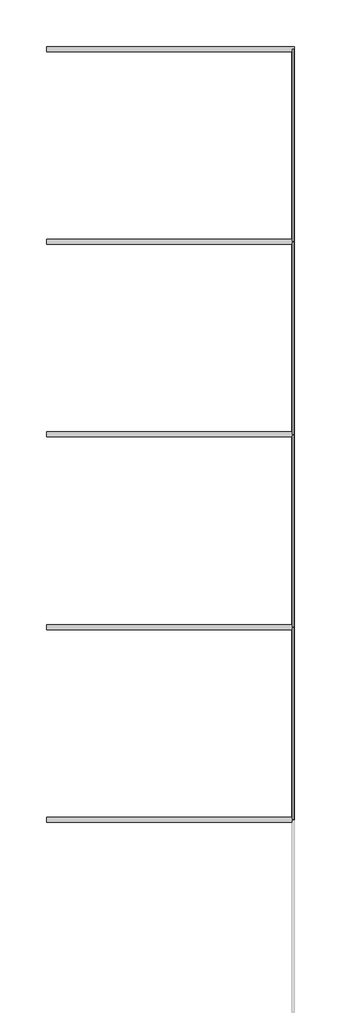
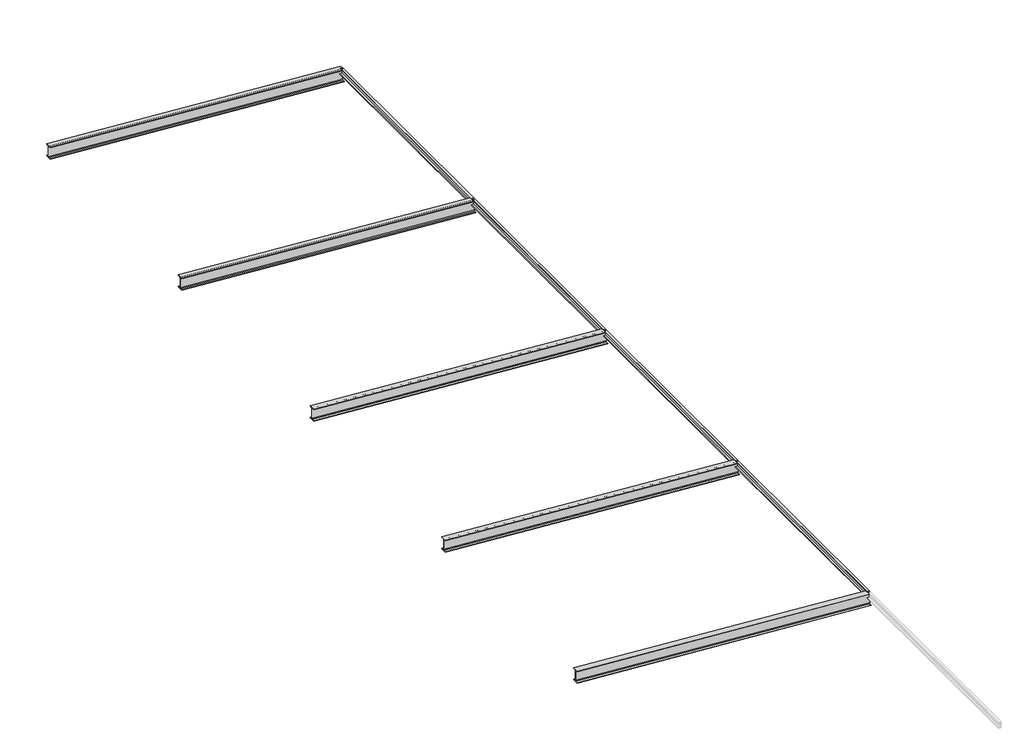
# One storey, part 2 of 2: 9 beams.
"""IFC4 building model written with IfcOpenShell, lengths in millimetres."""

from ifc_helpers import new_model, si_unit, frame, origin, place, context, project, spatial, polyline, ellipse_curve, transform, mapped, element, save
from ifc_brep_helpers import plane_surface, revolved_surface, advanced_brep
from components import c160_97cef8d6, c160_676f0d43, c160_1365dad8

model = new_model("IFC4")

# Units and contexts
model_context = context("Model", 3, world=origin())
ifc_project = project(units=[si_unit("LENGTHUNIT", "METRE", prefix="MILLI")], contexts=[model_context])

# Site, building, storey
site = spatial("IfcSite", under=ifc_project)
building = spatial("IfcBuilding", under=site)
storey = spatial("IfcBuildingStorey", under=building, Name="+3,50 góra", Elevation=3504.0)

# Beams
placement = place(None, origin())
c160_shape = c160_97cef8d6(model_context)
element("IfcBeam", 1, ObjectType="RPLN C - Ceowniki normalne : C160", at=placement, inside=storey, context=model_context, shape_type="MappedRepresentation", body=[
    mapped(c160_shape, transform((11806.0493936, 14087.5183415, 3761.259887), x_axis=(0.0, -1.0, 0.0), y_axis=(0.997461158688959, 0.0, -0.07121261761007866), z_axis=(0.07121261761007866, 0.0, 0.997461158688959))),
])
c160_2_shape = c160_676f0d43(model_context)
element("IfcBeam", 2, ObjectType="RPLN C - Ceowniki normalne : C160", at=placement, inside=storey, context=model_context, shape_type="MappedRepresentation", body=[
    mapped(c160_2_shape, transform((11806.0493936, -3912.4816585, 3761.259887), x_axis=(0.0, -1.0, 0.0), y_axis=(0.997461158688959, 0.0, -0.07121261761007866), z_axis=(0.07121261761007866, 0.0, 0.997461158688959))),
])
element("IfcBeam", 3, ObjectType="RPLN C - Ceowniki normalne : C160", at=placement, inside=storey, context=model_context, shape_type="MappedRepresentation", body=[
    mapped(c160_2_shape, transform((11806.0493936, 2087.5183415, 3761.259887), x_axis=(0.0, -1.0, 0.0), y_axis=(0.997461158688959, 0.0, -0.07121261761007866), z_axis=(0.07121261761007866, 0.0, 0.997461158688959))),
])
c160_3_shape = c160_1365dad8(model_context)
element("IfcBeam", 4, ObjectType="RPLN C - Ceowniki normalne : C160", at=placement, inside=storey, context=model_context, shape_type="MappedRepresentation", body=[
    mapped(c160_3_shape, transform((11806.0493936, 8087.5183415, 3761.259887), x_axis=(0.0, -1.0, 0.0), y_axis=(0.997461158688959, 0.0, -0.07121261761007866), z_axis=(0.07121261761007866, 0.0, 0.997461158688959))),
])
element("IfcBeam", 5, ObjectType="RPLN IPE - Dwuteowniki równoległościenne : I330PE", at=placement, inside=storey, context=model_context, shape_type="AdvancedBrep", body=[
    advanced_brep(
    [(4098.4032904, 17109.2683415, 4052.3806511), (4098.4032904, 17167.5183415, 4052.3806511), (4098.4032904, 17167.5183415, 4040.8513801), (4098.4032904, 17007.5183415, 4040.8513801), (4098.4032904, 17007.5183415, 4052.3806511), (4098.4032904, 17065.7683415, 4052.3806511), (4098.4032904, 17083.7683415, 4070.4264665), (4098.4032904, 17083.7683415, 4342.1162438), (4098.4032904, 17065.7683415, 4360.1620592), (4098.4032904, 17007.5183415, 4360.1620592), (4098.4032904, 17007.5183415, 4371.6913302), (4098.4032904, 17167.5183415, 4371.6913302), (4098.4032904, 17167.5183415, 4360.1620592), (4098.4032904, 17109.2683415, 4360.1620592), (4098.4032904, 17091.2683415, 4342.1162438), (4098.4032904, 17091.2683415, 4070.4264665), (11827.9888896, 17167.5183415, 3500.5355804), (11827.9888896, 17109.2683415, 3500.5355804), (11827.9888896, 17091.2683415, 3518.5813959), (11827.9888896, 17091.2683415, 3790.2711731), (11827.9888896, 17109.2683415, 3808.3169886), (11827.9888896, 17167.5183415, 3808.3169886), (11827.9888896, 17167.5183415, 3819.8462596), (11827.9888896, 17007.5183415, 3819.8462596), (11827.9888896, 17007.5183415, 3808.3169886), (11827.9888896, 17065.7683415, 3808.3169886), (11827.9888896, 17083.7683415, 3790.2711731), (11827.9888896, 17083.7683415, 3518.5813959), (11827.9888896, 17065.7683415, 3500.5355804), (11827.9888896, 17007.5183415, 3500.5355804), (11827.9888896, 17007.5183415, 3489.0063094), (11827.9888896, 17167.5183415, 3489.0063094)],
    [
        (0, 1),
        (1, 2),
        (2, 3),
        (3, 4),
        (4, 5),
        (5, 6, ellipse_curve(frame((4098.4032904, 17065.7683415, 4070.4264665), z_axis=(1.0, 0.0, 0.0), x_axis=(0.0, 0.0, 1.0)), 18.0458155, 18.0)),
        (6, 7),
        (7, 8, ellipse_curve(frame((4098.4032904, 17065.7683415, 4342.1162438), z_axis=(1.0, 0.0, 0.0), x_axis=(0.0, 0.0, 1.0)), 18.0458155, 18.0)),
        (8, 9),
        (9, 10),
        (10, 11),
        (11, 12),
        (12, 13),
        (13, 14, ellipse_curve(frame((4098.4032904, 17109.2683415, 4342.1162438), z_axis=(1.0, 0.0, 0.0), x_axis=(0.0, 0.0, 1.0)), 18.0458155, 18.0)),
        (14, 15),
        (15, 0, ellipse_curve(frame((4098.4032904, 17109.2683415, 4070.4264665), z_axis=(1.0, 0.0, 0.0), x_axis=(0.0, 0.0, 1.0)), 18.0458155, 18.0)),
        (16, 17),
        (17, 18, ellipse_curve(frame((11827.9888896, 17109.2683415, 3518.5813959), z_axis=(-1.0, 0.0, 0.0), x_axis=(0.0, 0.0, 1.0)), 18.0458155, 18.0)),
        (18, 19),
        (19, 20, ellipse_curve(frame((11827.9888896, 17109.2683415, 3790.2711731), z_axis=(-1.0, 0.0, 0.0), x_axis=(0.0, 0.0, 1.0)), 18.0458155, 18.0)),
        (20, 21),
        (21, 22),
        (22, 23),
        (23, 24),
        (24, 25),
        (25, 26, ellipse_curve(frame((11827.9888896, 17065.7683415, 3790.2711731), z_axis=(-1.0, 0.0, 0.0), x_axis=(0.0, 0.0, 1.0)), 18.0458155, 18.0)),
        (26, 27),
        (27, 28, ellipse_curve(frame((11827.9888896, 17065.7683415, 3518.5813959), z_axis=(-1.0, 0.0, 0.0), x_axis=(0.0, 0.0, 1.0)), 18.0458155, 18.0)),
        (28, 29),
        (29, 30),
        (30, 31),
        (31, 16),
        (16, 1),
        (0, 17),
        (31, 2),
        (30, 3),
        (29, 4),
        (28, 5),
        (27, 6),
        (26, 7),
        (25, 8),
        (24, 9),
        (23, 10),
        (22, 11),
        (21, 12),
        (20, 13),
        (19, 14),
        (18, 15),
    ],
    [
        plane_surface(frame((4098.4032904, -28791.4644976, 4040.8513801), z_axis=(-1.0, 0.0, 0.0), x_axis=(0.0, 0.0, -1.0))),
        plane_surface(frame((11827.9888896, -28791.4644976, 3790.5936883), z_axis=(1.0, 0.0, 0.0), x_axis=(0.0, 0.0, 1.0))),
        plane_surface(frame((11888.751267, 17167.5183415, 3496.1975188), z_axis=(0.0712126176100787, 0.0, 0.997461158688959), x_axis=(-0.997461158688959, 0.0, 0.0712126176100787))),
        plane_surface(frame((11887.9323219, 17167.5183415, 3484.7267155), z_axis=(0.0, 1.0, 0.0), x_axis=(-0.997461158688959, 0.0, 0.0712126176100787))),
        plane_surface(frame((11887.9323219, 17007.5183415, 3484.7267155), z_axis=(-0.0712126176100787, 0.0, -0.997461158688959), x_axis=(-0.997461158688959, 0.0, 0.0712126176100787))),
        plane_surface(frame((11888.751267, 17007.5183415, 3496.1975188), z_axis=(0.0, -1.0, 0.0), x_axis=(-0.997461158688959, 0.0, 0.0712126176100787))),
        plane_surface(frame((11888.751267, 17065.7683415, 3496.1975188), z_axis=(0.0712126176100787, 0.0, 0.997461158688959), x_axis=(-0.997461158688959, 0.0, 0.0712126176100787))),
        revolved_surface(polyline([(4097.1214632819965, 17047.7683415, 4070.517981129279), (11829.270716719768, 17047.7683415, 3518.489881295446)]), (11890.0330941, 17065.7683415, 3514.1518197), (-0.997461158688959, 0.0, 0.0712126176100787)),
        plane_surface(frame((11909.3317135, 17083.7683415, 3784.4637937), z_axis=(0.0, -1.0, 0.0), x_axis=(-0.997461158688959, 0.0, 0.0712126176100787))),
        revolved_surface(polyline([(4097.121463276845, 17047.7683415, 4342.2077583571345), (11829.270716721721, 17047.7683415, 3790.179658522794)]), (11909.3317135, 17065.7683415, 3784.4637937), (-0.997461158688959, 0.0, 0.0712126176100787)),
        plane_surface(frame((11910.6135406, 17007.5183415, 3802.4180946), z_axis=(-0.0712126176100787, 0.0, -0.997461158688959), x_axis=(-0.997461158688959, 0.0, 0.0712126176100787))),
        plane_surface(frame((11911.4324857, 17007.5183415, 3813.8888979), z_axis=(0.0, -1.0, 0.0), x_axis=(-0.997461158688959, 0.0, 0.0712126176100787))),
        plane_surface(frame((11911.4324857, 17167.5183415, 3813.8888979), z_axis=(0.0712126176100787, 0.0, 0.997461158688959), x_axis=(-0.997461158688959, 0.0, 0.0712126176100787))),
        plane_surface(frame((11910.6135406, 17167.5183415, 3802.4180946), z_axis=(0.0, 1.0, 0.0), x_axis=(-0.997461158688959, 0.0, 0.0712126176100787))),
        plane_surface(frame((11910.6135406, 17109.2683415, 3802.4180946), z_axis=(-0.0712126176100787, 0.0, -0.997461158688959), x_axis=(-0.997461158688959, 0.0, 0.0712126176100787))),
        revolved_surface(polyline([(4097.121463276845, 17091.2683415, 4342.2077583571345), (11829.270716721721, 17091.2683415, 3790.179658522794)]), (11909.3317135, 17109.2683415, 3784.4637937), (-0.997461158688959, 0.0, 0.0712126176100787)),
        plane_surface(frame((11890.0330941, 17091.2683415, 3514.1518197), z_axis=(0.0, 1.0, 0.0), x_axis=(-0.997461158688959, 0.0, 0.0712126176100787))),
        revolved_surface(polyline([(4097.1214632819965, 17091.2683415, 4070.517981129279), (11829.270716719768, 17091.2683415, 3518.489881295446)]), (11890.0330941, 17109.2683415, 3514.1518197), (-0.997461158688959, 0.0, 0.0712126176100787)),
    ],
    [
        (0, [[1, 2, 3, 4, 5, 6, 7, 8, 9, 10, 11, 12, 13, 14, 15, 16]]),
        (1, [[17, 18, 19, 20, 21, 22, 23, 24, 25, 26, 27, 28, 29, 30, 31, 32]]),
        (2, [[33, -1, 34, -17]]),
        (3, [[35, -2, -33, -32]]),
        (4, [[36, -3, -35, -31]]),
        (5, [[37, -4, -36, -30]]),
        (6, [[38, -5, -37, -29]]),
        (7, [[39, -6, -38, -28]]),
        (8, [[40, -7, -39, -27]]),
        (9, [[41, -8, -40, -26]]),
        (10, [[42, -9, -41, -25]]),
        (11, [[43, -10, -42, -24]]),
        (12, [[44, -11, -43, -23]]),
        (13, [[45, -12, -44, -22]]),
        (14, [[46, -13, -45, -21]]),
        (15, [[47, -14, -46, -20]]),
        (16, [[48, -15, -47, -19]]),
        (17, [[-34, -16, -48, -18]]),
    ],
),
])
element("IfcBeam", 6, ObjectType="RPLN IPE - Dwuteowniki równoległościenne : I330PE", at=placement, inside=storey, context=model_context, shape_type="AdvancedBrep", body=[
    advanced_brep(
    [(4098.4032904, -6890.7316585, 4052.3806511), (4098.4032904, -6832.4816585, 4052.3806511), (4098.4032904, -6832.4816585, 4040.8513801), (4098.4032904, -6992.4816585, 4040.8513801), (4098.4032904, -6992.4816585, 4052.3806511), (4098.4032904, -6934.2316585, 4052.3806511), (4098.4032904, -6916.2316585, 4070.4264665), (4098.4032904, -6916.2316585, 4342.1162438), (4098.4032904, -6934.2316585, 4360.1620592), (4098.4032904, -6992.4816585, 4360.1620592), (4098.4032904, -6992.4816585, 4371.6913302), (4098.4032904, -6832.4816585, 4371.6913302), (4098.4032904, -6832.4816585, 4360.1620592), (4098.4032904, -6890.7316585, 4360.1620592), (4098.4032904, -6908.7316585, 4342.1162438), (4098.4032904, -6908.7316585, 4070.4264665), (11827.9888896, -6832.4816585, 3500.5355804), (11827.9888896, -6890.7316585, 3500.5355804), (11827.9888896, -6908.7316585, 3518.5813959), (11827.9888896, -6908.7316585, 3790.2711731), (11827.9888896, -6890.7316585, 3808.3169886), (11827.9888896, -6832.4816585, 3808.3169886), (11827.9888896, -6832.4816585, 3819.8462596), (11827.9888896, -6992.4816585, 3819.8462596), (11827.9888896, -6992.4816585, 3808.3169886), (11827.9888896, -6934.2316585, 3808.3169886), (11827.9888896, -6916.2316585, 3790.2711731), (11827.9888896, -6916.2316585, 3518.5813959), (11827.9888896, -6934.2316585, 3500.5355804), (11827.9888896, -6992.4816585, 3500.5355804), (11827.9888896, -6992.4816585, 3489.0063094), (11827.9888896, -6832.4816585, 3489.0063094)],
    [
        (0, 1),
        (1, 2),
        (2, 3),
        (3, 4),
        (4, 5),
        (5, 6, ellipse_curve(frame((4098.4032904, -6934.2316585, 4070.4264665), z_axis=(1.0, 0.0, 0.0), x_axis=(0.0, 0.0, 1.0)), 18.0458155, 18.0)),
        (6, 7),
        (7, 8, ellipse_curve(frame((4098.4032904, -6934.2316585, 4342.1162438), z_axis=(1.0, 0.0, 0.0), x_axis=(0.0, 0.0, 1.0)), 18.0458155, 18.0)),
        (8, 9),
        (9, 10),
        (10, 11),
        (11, 12),
        (12, 13),
        (13, 14, ellipse_curve(frame((4098.4032904, -6890.7316585, 4342.1162438), z_axis=(1.0, 0.0, 0.0), x_axis=(0.0, 0.0, 1.0)), 18.0458155, 18.0)),
        (14, 15),
        (15, 0, ellipse_curve(frame((4098.4032904, -6890.7316585, 4070.4264665), z_axis=(1.0, 0.0, 0.0), x_axis=(0.0, 0.0, 1.0)), 18.0458155, 18.0)),
        (16, 17),
        (17, 18, ellipse_curve(frame((11827.9888896, -6890.7316585, 3518.5813959), z_axis=(-1.0, 0.0, 0.0), x_axis=(0.0, 0.0, 1.0)), 18.0458155, 18.0)),
        (18, 19),
        (19, 20, ellipse_curve(frame((11827.9888896, -6890.7316585, 3790.2711731), z_axis=(-1.0, 0.0, 0.0), x_axis=(0.0, 0.0, 1.0)), 18.0458155, 18.0)),
        (20, 21),
        (21, 22),
        (22, 23),
        (23, 24),
        (24, 25),
        (25, 26, ellipse_curve(frame((11827.9888896, -6934.2316585, 3790.2711731), z_axis=(-1.0, 0.0, 0.0), x_axis=(0.0, 0.0, 1.0)), 18.0458155, 18.0)),
        (26, 27),
        (27, 28, ellipse_curve(frame((11827.9888896, -6934.2316585, 3518.5813959), z_axis=(-1.0, 0.0, 0.0), x_axis=(0.0, 0.0, 1.0)), 18.0458155, 18.0)),
        (28, 29),
        (29, 30),
        (30, 31),
        (31, 16),
        (16, 1),
        (0, 17),
        (31, 2),
        (30, 3),
        (29, 4),
        (28, 5),
        (27, 6),
        (26, 7),
        (25, 8),
        (24, 9),
        (23, 10),
        (22, 11),
        (21, 12),
        (20, 13),
        (19, 14),
        (18, 15),
    ],
    [
        plane_surface(frame((4098.4032904, -28791.4644976, 4040.8513801), z_axis=(-1.0, 0.0, 0.0), x_axis=(0.0, 0.0, -1.0))),
        plane_surface(frame((11827.9888896, -28791.4644976, 3790.5936883), z_axis=(1.0, 0.0, 0.0), x_axis=(0.0, 0.0, 1.0))),
        plane_surface(frame((11939.8742372, -6832.4816585, 3492.5476519), z_axis=(0.07121261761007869, 0.0, 0.997461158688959), x_axis=(-0.997461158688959, 0.0, 0.07121261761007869))),
        plane_surface(frame((11939.0552921, -6832.4816585, 3481.0768486), z_axis=(0.0, 1.0, 0.0), x_axis=(-0.997461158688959, 0.0, 0.07121261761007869))),
        plane_surface(frame((11939.0552921, -6992.4816585, 3481.0768486), z_axis=(-0.07121261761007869, 0.0, -0.997461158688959), x_axis=(-0.997461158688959, 0.0, 0.07121261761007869))),
        plane_surface(frame((11939.8742372, -6992.4816585, 3492.5476519), z_axis=(0.0, -1.0, 0.0), x_axis=(-0.997461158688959, 0.0, 0.07121261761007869))),
        plane_surface(frame((11939.8742372, -6934.2316585, 3492.5476519), z_axis=(0.07121261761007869, 0.0, 0.997461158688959), x_axis=(-0.997461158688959, 0.0, 0.07121261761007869))),
        revolved_surface(polyline([(4097.1214632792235, -6952.2316585, 4070.5179810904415), (11829.270716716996, -6952.2316585, 3518.4898812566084)]), (11941.1560643, -6934.2316585, 3510.5019527), (-0.997461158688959, 0.0, 0.07121261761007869)),
        plane_surface(frame((11960.4546837, -6916.2316585, 3780.8139267), z_axis=(0.0, -1.0, 0.0), x_axis=(-0.997461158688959, 0.0, 0.07121261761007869))),
        revolved_surface(polyline([(4097.121463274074, -6952.2316585, 4342.207758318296), (11829.270716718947, -6952.2316585, 3790.1796584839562)]), (11960.4546837, -6934.2316585, 3780.8139267), (-0.997461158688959, 0.0, 0.07121261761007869)),
        plane_surface(frame((11961.7365108, -6992.4816585, 3798.7682276), z_axis=(-0.07121261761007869, 0.0, -0.997461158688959), x_axis=(-0.997461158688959, 0.0, 0.07121261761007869))),
        plane_surface(frame((11962.5554559, -6992.4816585, 3810.2390309), z_axis=(0.0, -1.0, 0.0), x_axis=(-0.997461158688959, 0.0, 0.07121261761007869))),
        plane_surface(frame((11962.5554559, -6832.4816585, 3810.2390309), z_axis=(0.07121261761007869, 0.0, 0.997461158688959), x_axis=(-0.997461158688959, 0.0, 0.07121261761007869))),
        plane_surface(frame((11961.7365108, -6832.4816585, 3798.7682276), z_axis=(0.0, 1.0, 0.0), x_axis=(-0.997461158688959, 0.0, 0.07121261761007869))),
        plane_surface(frame((11961.7365108, -6890.7316585, 3798.7682276), z_axis=(-0.07121261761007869, 0.0, -0.997461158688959), x_axis=(-0.997461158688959, 0.0, 0.07121261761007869))),
        revolved_surface(polyline([(4097.121463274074, -6908.7316585, 4342.207758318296), (11829.270716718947, -6908.7316585, 3790.1796584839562)]), (11960.4546837, -6890.7316585, 3780.8139267), (-0.997461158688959, 0.0, 0.07121261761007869)),
        plane_surface(frame((11941.1560643, -6908.7316585, 3510.5019527), z_axis=(0.0, 1.0, 0.0), x_axis=(-0.997461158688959, 0.0, 0.07121261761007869))),
        revolved_surface(polyline([(4097.1214632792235, -6908.7316585, 4070.5179810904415), (11829.270716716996, -6908.7316585, 3518.4898812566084)]), (11941.1560643, -6890.7316585, 3510.5019527), (-0.997461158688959, 0.0, 0.07121261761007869)),
    ],
    [
        (0, [[1, 2, 3, 4, 5, 6, 7, 8, 9, 10, 11, 12, 13, 14, 15, 16]]),
        (1, [[17, 18, 19, 20, 21, 22, 23, 24, 25, 26, 27, 28, 29, 30, 31, 32]]),
        (2, [[33, -1, 34, -17]]),
        (3, [[35, -2, -33, -32]]),
        (4, [[36, -3, -35, -31]]),
        (5, [[37, -4, -36, -30]]),
        (6, [[38, -5, -37, -29]]),
        (7, [[39, -6, -38, -28]]),
        (8, [[40, -7, -39, -27]]),
        (9, [[41, -8, -40, -26]]),
        (10, [[42, -9, -41, -25]]),
        (11, [[43, -10, -42, -24]]),
        (12, [[44, -11, -43, -23]]),
        (13, [[45, -12, -44, -22]]),
        (14, [[46, -13, -45, -21]]),
        (15, [[47, -14, -46, -20]]),
        (16, [[48, -15, -47, -19]]),
        (17, [[-34, -16, -48, -18]]),
    ],
),
])
element("IfcBeam", 7, ObjectType="RPLN IPE - Dwuteowniki równoległościenne : I330PE", at=placement, inside=storey, context=model_context, shape_type="AdvancedBrep", body=[
    advanced_brep(
    [(4098.4032904, -890.7316585, 4052.3806511), (4098.4032904, -832.4816585, 4052.3806511), (4098.4032904, -832.4816585, 4040.8513801), (4098.4032904, -992.4816585, 4040.8513801), (4098.4032904, -992.4816585, 4052.3806511), (4098.4032904, -934.2316585, 4052.3806511), (4098.4032904, -916.2316585, 4070.4264665), (4098.4032904, -916.2316585, 4342.1162438), (4098.4032904, -934.2316585, 4360.1620592), (4098.4032904, -992.4816585, 4360.1620592), (4098.4032904, -992.4816585, 4371.6913302), (4098.4032904, -832.4816585, 4371.6913302), (4098.4032904, -832.4816585, 4360.1620592), (4098.4032904, -890.7316585, 4360.1620592), (4098.4032904, -908.7316585, 4342.1162438), (4098.4032904, -908.7316585, 4070.4264665), (11827.9888896, -832.4816585, 3500.5355804), (11827.9888896, -890.7316585, 3500.5355804), (11827.9888896, -908.7316585, 3518.5813959), (11827.9888896, -908.7316585, 3790.2711731), (11827.9888896, -890.7316585, 3808.3169886), (11827.9888896, -832.4816585, 3808.3169886), (11827.9888896, -832.4816585, 3819.8462596), (11827.9888896, -992.4816585, 3819.8462596), (11827.9888896, -992.4816585, 3808.3169886), (11827.9888896, -934.2316585, 3808.3169886), (11827.9888896, -916.2316585, 3790.2711731), (11827.9888896, -916.2316585, 3518.5813959), (11827.9888896, -934.2316585, 3500.5355804), (11827.9888896, -992.4816585, 3500.5355804), (11827.9888896, -992.4816585, 3489.0063094), (11827.9888896, -832.4816585, 3489.0063094)],
    [
        (0, 1),
        (1, 2),
        (2, 3),
        (3, 4),
        (4, 5),
        (5, 6, ellipse_curve(frame((4098.4032904, -934.2316585, 4070.4264665), z_axis=(1.0, 0.0, 0.0), x_axis=(0.0, 0.0, 1.0)), 18.0458155, 18.0)),
        (6, 7),
        (7, 8, ellipse_curve(frame((4098.4032904, -934.2316585, 4342.1162438), z_axis=(1.0, 0.0, 0.0), x_axis=(0.0, 0.0, 1.0)), 18.0458155, 18.0)),
        (8, 9),
        (9, 10),
        (10, 11),
        (11, 12),
        (12, 13),
        (13, 14, ellipse_curve(frame((4098.4032904, -890.7316585, 4342.1162438), z_axis=(1.0, 0.0, 0.0), x_axis=(0.0, 0.0, 1.0)), 18.0458155, 18.0)),
        (14, 15),
        (15, 0, ellipse_curve(frame((4098.4032904, -890.7316585, 4070.4264665), z_axis=(1.0, 0.0, 0.0), x_axis=(0.0, 0.0, 1.0)), 18.0458155, 18.0)),
        (16, 17),
        (17, 18, ellipse_curve(frame((11827.9888896, -890.7316585, 3518.5813959), z_axis=(-1.0, 0.0, 0.0), x_axis=(0.0, 0.0, 1.0)), 18.0458155, 18.0)),
        (18, 19),
        (19, 20, ellipse_curve(frame((11827.9888896, -890.7316585, 3790.2711731), z_axis=(-1.0, 0.0, 0.0), x_axis=(0.0, 0.0, 1.0)), 18.0458155, 18.0)),
        (20, 21),
        (21, 22),
        (22, 23),
        (23, 24),
        (24, 25),
        (25, 26, ellipse_curve(frame((11827.9888896, -934.2316585, 3790.2711731), z_axis=(-1.0, 0.0, 0.0), x_axis=(0.0, 0.0, 1.0)), 18.0458155, 18.0)),
        (26, 27),
        (27, 28, ellipse_curve(frame((11827.9888896, -934.2316585, 3518.5813959), z_axis=(-1.0, 0.0, 0.0), x_axis=(0.0, 0.0, 1.0)), 18.0458155, 18.0)),
        (28, 29),
        (29, 30),
        (30, 31),
        (31, 16),
        (16, 1),
        (0, 17),
        (31, 2),
        (30, 3),
        (29, 4),
        (28, 5),
        (27, 6),
        (26, 7),
        (25, 8),
        (24, 9),
        (23, 10),
        (22, 11),
        (21, 12),
        (20, 13),
        (19, 14),
        (18, 15),
    ],
    [
        plane_surface(frame((4098.4032904, -28791.4644976, 4040.8513801), z_axis=(-1.0, 0.0, 0.0), x_axis=(0.0, 0.0, -1.0))),
        plane_surface(frame((11827.9888896, -28791.4644976, 3790.5936883), z_axis=(1.0, 0.0, 0.0), x_axis=(0.0, 0.0, 1.0))),
        plane_surface(frame((11939.320539, -832.4816585, 3492.5871825), z_axis=(0.07121261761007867, 0.0, 0.997461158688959), x_axis=(-0.997461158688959, 0.0, 0.07121261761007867))),
        plane_surface(frame((11938.5015939, -832.4816585, 3481.1163792), z_axis=(0.0, 1.0, 0.0), x_axis=(-0.997461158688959, 0.0, 0.07121261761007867))),
        plane_surface(frame((11938.5015939, -992.4816585, 3481.1163792), z_axis=(-0.07121261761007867, 0.0, -0.997461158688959), x_axis=(-0.997461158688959, 0.0, 0.07121261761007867))),
        plane_surface(frame((11939.320539, -992.4816585, 3492.5871825), z_axis=(0.0, -1.0, 0.0), x_axis=(-0.997461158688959, 0.0, 0.07121261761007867))),
        plane_surface(frame((11939.320539, -934.2316585, 3492.5871825), z_axis=(0.07121261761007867, 0.0, 0.997461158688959), x_axis=(-0.997461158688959, 0.0, 0.07121261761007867))),
        revolved_surface(polyline([(4097.121463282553, -952.2316585, 4070.5179811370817), (11829.270716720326, -952.2316585, 3518.4898813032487)]), (11940.6023662, -934.2316585, 3510.5414834), (-0.997461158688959, 0.0, 0.07121261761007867)),
        plane_surface(frame((11959.9009855, -916.2316585, 3780.8534574), z_axis=(0.0, -1.0, 0.0), x_axis=(-0.997461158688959, 0.0, 0.07121261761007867))),
        revolved_surface(polyline([(4097.121463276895, -952.2316585, 4342.207758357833), (11829.27071672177, -952.2316585, 3790.1796585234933)]), (11959.9009855, -934.2316585, 3780.8534574), (-0.997461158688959, 0.0, 0.07121261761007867)),
        plane_surface(frame((11961.1828127, -992.4816585, 3798.8077583), z_axis=(-0.07121261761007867, 0.0, -0.997461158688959), x_axis=(-0.997461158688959, 0.0, 0.07121261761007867))),
        plane_surface(frame((11962.0017578, -992.4816585, 3810.2785616), z_axis=(0.0, -1.0, 0.0), x_axis=(-0.997461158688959, 0.0, 0.07121261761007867))),
        plane_surface(frame((11962.0017578, -832.4816585, 3810.2785616), z_axis=(0.07121261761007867, 0.0, 0.997461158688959), x_axis=(-0.997461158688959, 0.0, 0.07121261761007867))),
        plane_surface(frame((11961.1828127, -832.4816585, 3798.8077583), z_axis=(0.0, 1.0, 0.0), x_axis=(-0.997461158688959, 0.0, 0.07121261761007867))),
        plane_surface(frame((11961.1828127, -890.7316585, 3798.8077583), z_axis=(-0.07121261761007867, 0.0, -0.997461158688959), x_axis=(-0.997461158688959, 0.0, 0.07121261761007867))),
        revolved_surface(polyline([(4097.121463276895, -908.7316585, 4342.207758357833), (11829.27071672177, -908.7316585, 3790.1796585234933)]), (11959.9009855, -890.7316585, 3780.8534574), (-0.997461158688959, 0.0, 0.07121261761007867)),
        plane_surface(frame((11940.6023662, -908.7316585, 3510.5414834), z_axis=(0.0, 1.0, 0.0), x_axis=(-0.997461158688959, 0.0, 0.07121261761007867))),
        revolved_surface(polyline([(4097.121463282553, -908.7316585, 4070.5179811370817), (11829.270716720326, -908.7316585, 3518.4898813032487)]), (11940.6023662, -890.7316585, 3510.5414834), (-0.997461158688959, 0.0, 0.07121261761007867)),
    ],
    [
        (0, [[1, 2, 3, 4, 5, 6, 7, 8, 9, 10, 11, 12, 13, 14, 15, 16]]),
        (1, [[17, 18, 19, 20, 21, 22, 23, 24, 25, 26, 27, 28, 29, 30, 31, 32]]),
        (2, [[33, -1, 34, -17]]),
        (3, [[35, -2, -33, -32]]),
        (4, [[36, -3, -35, -31]]),
        (5, [[37, -4, -36, -30]]),
        (6, [[38, -5, -37, -29]]),
        (7, [[39, -6, -38, -28]]),
        (8, [[40, -7, -39, -27]]),
        (9, [[41, -8, -40, -26]]),
        (10, [[42, -9, -41, -25]]),
        (11, [[43, -10, -42, -24]]),
        (12, [[44, -11, -43, -23]]),
        (13, [[45, -12, -44, -22]]),
        (14, [[46, -13, -45, -21]]),
        (15, [[47, -14, -46, -20]]),
        (16, [[48, -15, -47, -19]]),
        (17, [[-34, -16, -48, -18]]),
    ],
),
])
element("IfcBeam", 8, ObjectType="RPLN IPE - Dwuteowniki równoległościenne : I330PE", at=placement, inside=storey, context=model_context, shape_type="AdvancedBrep", body=[
    advanced_brep(
    [(4098.4032904, 5109.2683415, 4052.3806511), (4098.4032904, 5167.5183415, 4052.3806511), (4098.4032904, 5167.5183415, 4040.8513801), (4098.4032904, 5007.5183415, 4040.8513801), (4098.4032904, 5007.5183415, 4052.3806511), (4098.4032904, 5065.7683415, 4052.3806511), (4098.4032904, 5083.7683415, 4070.4264665), (4098.4032904, 5083.7683415, 4342.1162438), (4098.4032904, 5065.7683415, 4360.1620592), (4098.4032904, 5007.5183415, 4360.1620592), (4098.4032904, 5007.5183415, 4371.6913302), (4098.4032904, 5167.5183415, 4371.6913302), (4098.4032904, 5167.5183415, 4360.1620592), (4098.4032904, 5109.2683415, 4360.1620592), (4098.4032904, 5091.2683415, 4342.1162438), (4098.4032904, 5091.2683415, 4070.4264665), (11827.9888896, 5167.5183415, 3500.5355804), (11827.9888896, 5109.2683415, 3500.5355804), (11827.9888896, 5091.2683415, 3518.5813959), (11827.9888896, 5091.2683415, 3790.2711731), (11827.9888896, 5109.2683415, 3808.3169886), (11827.9888896, 5167.5183415, 3808.3169886), (11827.9888896, 5167.5183415, 3819.8462596), (11827.9888896, 5007.5183415, 3819.8462596), (11827.9888896, 5007.5183415, 3808.3169886), (11827.9888896, 5065.7683415, 3808.3169886), (11827.9888896, 5083.7683415, 3790.2711731), (11827.9888896, 5083.7683415, 3518.5813959), (11827.9888896, 5065.7683415, 3500.5355804), (11827.9888896, 5007.5183415, 3500.5355804), (11827.9888896, 5007.5183415, 3489.0063094), (11827.9888896, 5167.5183415, 3489.0063094)],
    [
        (0, 1),
        (1, 2),
        (2, 3),
        (3, 4),
        (4, 5),
        (5, 6, ellipse_curve(frame((4098.4032904, 5065.7683415, 4070.4264665), z_axis=(1.0, 0.0, 0.0), x_axis=(0.0, 0.0, 1.0)), 18.0458155, 18.0)),
        (6, 7),
        (7, 8, ellipse_curve(frame((4098.4032904, 5065.7683415, 4342.1162438), z_axis=(1.0, 0.0, 0.0), x_axis=(0.0, 0.0, 1.0)), 18.0458155, 18.0)),
        (8, 9),
        (9, 10),
        (10, 11),
        (11, 12),
        (12, 13),
        (13, 14, ellipse_curve(frame((4098.4032904, 5109.2683415, 4342.1162438), z_axis=(1.0, 0.0, 0.0), x_axis=(0.0, 0.0, 1.0)), 18.0458155, 18.0)),
        (14, 15),
        (15, 0, ellipse_curve(frame((4098.4032904, 5109.2683415, 4070.4264665), z_axis=(1.0, 0.0, 0.0), x_axis=(0.0, 0.0, 1.0)), 18.0458155, 18.0)),
        (16, 17),
        (17, 18, ellipse_curve(frame((11827.9888896, 5109.2683415, 3518.5813959), z_axis=(-1.0, 0.0, 0.0), x_axis=(0.0, 0.0, 1.0)), 18.0458155, 18.0)),
        (18, 19),
        (19, 20, ellipse_curve(frame((11827.9888896, 5109.2683415, 3790.2711731), z_axis=(-1.0, 0.0, 0.0), x_axis=(0.0, 0.0, 1.0)), 18.0458155, 18.0)),
        (20, 21),
        (21, 22),
        (22, 23),
        (23, 24),
        (24, 25),
        (25, 26, ellipse_curve(frame((11827.9888896, 5065.7683415, 3790.2711731), z_axis=(-1.0, 0.0, 0.0), x_axis=(0.0, 0.0, 1.0)), 18.0458155, 18.0)),
        (26, 27),
        (27, 28, ellipse_curve(frame((11827.9888896, 5065.7683415, 3518.5813959), z_axis=(-1.0, 0.0, 0.0), x_axis=(0.0, 0.0, 1.0)), 18.0458155, 18.0)),
        (28, 29),
        (29, 30),
        (30, 31),
        (31, 16),
        (16, 1),
        (0, 17),
        (31, 2),
        (30, 3),
        (29, 4),
        (28, 5),
        (27, 6),
        (26, 7),
        (25, 8),
        (24, 9),
        (23, 10),
        (22, 11),
        (21, 12),
        (20, 13),
        (19, 14),
        (18, 15),
    ],
    [
        plane_surface(frame((4098.4032904, -28791.4644976, 4040.8513801), z_axis=(-1.0, 0.0, 0.0), x_axis=(0.0, 0.0, -1.0))),
        plane_surface(frame((11827.9888896, -28791.4644976, 3790.5936883), z_axis=(1.0, 0.0, 0.0), x_axis=(0.0, 0.0, 1.0))),
        plane_surface(frame((11896.6488305, 5167.5183415, 3495.6336812), z_axis=(0.07121261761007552, 0.0, 0.9974611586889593), x_axis=(-0.9974611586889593, 0.0, 0.07121261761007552))),
        plane_surface(frame((11895.8298854, 5167.5183415, 3484.1628778), z_axis=(0.0, 1.0000000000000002, 0.0), x_axis=(-0.9974611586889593, 0.0, 0.07121261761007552))),
        plane_surface(frame((11895.8298854, 5007.5183415, 3484.1628778), z_axis=(-0.07121261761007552, 0.0, -0.9974611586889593), x_axis=(-0.9974611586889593, 0.0, 0.07121261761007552))),
        plane_surface(frame((11896.6488305, 5007.5183415, 3495.6336812), z_axis=(0.0, -1.0000000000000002, 0.0), x_axis=(-0.9974611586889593, 0.0, 0.07121261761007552))),
        plane_surface(frame((11896.6488305, 5065.7683415, 3495.6336812), z_axis=(0.07121261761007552, 0.0, 0.9974611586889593), x_axis=(-0.9974611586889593, 0.0, 0.07121261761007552))),
        revolved_surface(polyline([(4097.121463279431, 5047.7683415, 4070.5179810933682), (11829.270716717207, 5047.7683415, 3518.4898812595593)]), (11897.9306576, 5065.7683415, 3513.587982), (-0.9974611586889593, 0.0, 0.07121261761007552)),
        plane_surface(frame((11917.229277, 5083.7683415, 3783.899956), z_axis=(0.0, -1.0000000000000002, 0.0), x_axis=(-0.9974611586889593, 0.0, 0.07121261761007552))),
        revolved_surface(polyline([(4097.121463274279, 5047.7683415, 4342.207758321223), (11829.270716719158, 5047.7683415, 3790.1796584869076)]), (11917.229277, 5065.7683415, 3783.899956), (-0.9974611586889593, 0.0, 0.07121261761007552)),
        plane_surface(frame((11918.5111041, 5007.5183415, 3801.8542569), z_axis=(-0.07121261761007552, 0.0, -0.9974611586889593), x_axis=(-0.9974611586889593, 0.0, 0.07121261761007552))),
        plane_surface(frame((11919.3300492, 5007.5183415, 3813.3250602), z_axis=(0.0, -1.0000000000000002, 0.0), x_axis=(-0.9974611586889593, 0.0, 0.07121261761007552))),
        plane_surface(frame((11919.3300492, 5167.5183415, 3813.3250602), z_axis=(0.07121261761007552, 0.0, 0.9974611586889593), x_axis=(-0.9974611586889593, 0.0, 0.07121261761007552))),
        plane_surface(frame((11918.5111041, 5167.5183415, 3801.8542569), z_axis=(0.0, 1.0000000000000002, 0.0), x_axis=(-0.9974611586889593, 0.0, 0.07121261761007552))),
        plane_surface(frame((11918.5111041, 5109.2683415, 3801.8542569), z_axis=(-0.07121261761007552, 0.0, -0.9974611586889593), x_axis=(-0.9974611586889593, 0.0, 0.07121261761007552))),
        revolved_surface(polyline([(4097.121463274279, 5091.2683415, 4342.207758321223), (11829.270716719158, 5091.2683415, 3790.1796584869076)]), (11917.229277, 5109.2683415, 3783.899956), (-0.9974611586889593, 0.0, 0.07121261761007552)),
        plane_surface(frame((11897.9306576, 5091.2683415, 3513.587982), z_axis=(0.0, 1.0000000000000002, 0.0), x_axis=(-0.9974611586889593, 0.0, 0.07121261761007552))),
        revolved_surface(polyline([(4097.121463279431, 5091.2683415, 4070.5179810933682), (11829.270716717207, 5091.2683415, 3518.4898812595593)]), (11897.9306576, 5109.2683415, 3513.587982), (-0.9974611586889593, 0.0, 0.07121261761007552)),
    ],
    [
        (0, [[1, 2, 3, 4, 5, 6, 7, 8, 9, 10, 11, 12, 13, 14, 15, 16]]),
        (1, [[17, 18, 19, 20, 21, 22, 23, 24, 25, 26, 27, 28, 29, 30, 31, 32]]),
        (2, [[33, -1, 34, -17]]),
        (3, [[35, -2, -33, -32]]),
        (4, [[36, -3, -35, -31]]),
        (5, [[37, -4, -36, -30]]),
        (6, [[38, -5, -37, -29]]),
        (7, [[39, -6, -38, -28]]),
        (8, [[40, -7, -39, -27]]),
        (9, [[41, -8, -40, -26]]),
        (10, [[42, -9, -41, -25]]),
        (11, [[43, -10, -42, -24]]),
        (12, [[44, -11, -43, -23]]),
        (13, [[45, -12, -44, -22]]),
        (14, [[46, -13, -45, -21]]),
        (15, [[47, -14, -46, -20]]),
        (16, [[48, -15, -47, -19]]),
        (17, [[-34, -16, -48, -18]]),
    ],
),
])
element("IfcBeam", 9, ObjectType="RPLN IPE - Dwuteowniki równoległościenne : I330PE", at=placement, inside=storey, context=model_context, shape_type="AdvancedBrep", body=[
    advanced_brep(
    [(4098.4032904, 11109.2683415, 4052.3806511), (4098.4032904, 11167.5183415, 4052.3806511), (4098.4032904, 11167.5183415, 4040.8513801), (4098.4032904, 11007.5183415, 4040.8513801), (4098.4032904, 11007.5183415, 4052.3806511), (4098.4032904, 11065.7683415, 4052.3806511), (4098.4032904, 11083.7683415, 4070.4264665), (4098.4032904, 11083.7683415, 4342.1162438), (4098.4032904, 11065.7683415, 4360.1620592), (4098.4032904, 11007.5183415, 4360.1620592), (4098.4032904, 11007.5183415, 4371.6913302), (4098.4032904, 11167.5183415, 4371.6913302), (4098.4032904, 11167.5183415, 4360.1620592), (4098.4032904, 11109.2683415, 4360.1620592), (4098.4032904, 11091.2683415, 4342.1162438), (4098.4032904, 11091.2683415, 4070.4264665), (11827.9888896, 11167.5183415, 3500.5355804), (11827.9888896, 11109.2683415, 3500.5355804), (11827.9888896, 11091.2683415, 3518.5813959), (11827.9888896, 11091.2683415, 3790.2711731), (11827.9888896, 11109.2683415, 3808.3169886), (11827.9888896, 11167.5183415, 3808.3169886), (11827.9888896, 11167.5183415, 3819.8462596), (11827.9888896, 11007.5183415, 3819.8462596), (11827.9888896, 11007.5183415, 3808.3169886), (11827.9888896, 11065.7683415, 3808.3169886), (11827.9888896, 11083.7683415, 3790.2711731), (11827.9888896, 11083.7683415, 3518.5813959), (11827.9888896, 11065.7683415, 3500.5355804), (11827.9888896, 11007.5183415, 3500.5355804), (11827.9888896, 11007.5183415, 3489.0063094), (11827.9888896, 11167.5183415, 3489.0063094)],
    [
        (0, 1),
        (1, 2),
        (2, 3),
        (3, 4),
        (4, 5),
        (5, 6, ellipse_curve(frame((4098.4032904, 11065.7683415, 4070.4264665), z_axis=(1.0, 0.0, 0.0), x_axis=(0.0, 0.0, 1.0)), 18.0458155, 18.0)),
        (6, 7),
        (7, 8, ellipse_curve(frame((4098.4032904, 11065.7683415, 4342.1162438), z_axis=(1.0, 0.0, 0.0), x_axis=(0.0, 0.0, 1.0)), 18.0458155, 18.0)),
        (8, 9),
        (9, 10),
        (10, 11),
        (11, 12),
        (12, 13),
        (13, 14, ellipse_curve(frame((4098.4032904, 11109.2683415, 4342.1162438), z_axis=(1.0, 0.0, 0.0), x_axis=(0.0, 0.0, 1.0)), 18.0458155, 18.0)),
        (14, 15),
        (15, 0, ellipse_curve(frame((4098.4032904, 11109.2683415, 4070.4264665), z_axis=(1.0, 0.0, 0.0), x_axis=(0.0, 0.0, 1.0)), 18.0458155, 18.0)),
        (16, 17),
        (17, 18, ellipse_curve(frame((11827.9888896, 11109.2683415, 3518.5813959), z_axis=(-1.0, 0.0, 0.0), x_axis=(0.0, 0.0, 1.0)), 18.0458155, 18.0)),
        (18, 19),
        (19, 20, ellipse_curve(frame((11827.9888896, 11109.2683415, 3790.2711731), z_axis=(-1.0, 0.0, 0.0), x_axis=(0.0, 0.0, 1.0)), 18.0458155, 18.0)),
        (20, 21),
        (21, 22),
        (22, 23),
        (23, 24),
        (24, 25),
        (25, 26, ellipse_curve(frame((11827.9888896, 11065.7683415, 3790.2711731), z_axis=(-1.0, 0.0, 0.0), x_axis=(0.0, 0.0, 1.0)), 18.0458155, 18.0)),
        (26, 27),
        (27, 28, ellipse_curve(frame((11827.9888896, 11065.7683415, 3518.5813959), z_axis=(-1.0, 0.0, 0.0), x_axis=(0.0, 0.0, 1.0)), 18.0458155, 18.0)),
        (28, 29),
        (29, 30),
        (30, 31),
        (31, 16),
        (16, 1),
        (0, 17),
        (31, 2),
        (30, 3),
        (29, 4),
        (28, 5),
        (27, 6),
        (26, 7),
        (25, 8),
        (24, 9),
        (23, 10),
        (22, 11),
        (21, 12),
        (20, 13),
        (19, 14),
        (18, 15),
    ],
    [
        plane_surface(frame((4098.4032904, -28791.4644976, 4040.8513801), z_axis=(-1.0, 0.0, 0.0), x_axis=(0.0, 0.0, -1.0))),
        plane_surface(frame((11827.9888896, -28791.4644976, 3790.5936883), z_axis=(1.0, 0.0, 0.0), x_axis=(0.0, 0.0, 1.0))),
        plane_surface(frame((11896.2916205, 11167.5183415, 3495.6591838), z_axis=(0.07121261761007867, 0.0, 0.997461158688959), x_axis=(-0.997461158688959, 0.0, 0.07121261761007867))),
        plane_surface(frame((11895.4726754, 11167.5183415, 3484.1883805), z_axis=(0.0, 1.0, 0.0), x_axis=(-0.997461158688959, 0.0, 0.07121261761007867))),
        plane_surface(frame((11895.4726754, 11007.5183415, 3484.1883805), z_axis=(-0.07121261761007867, 0.0, -0.997461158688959), x_axis=(-0.997461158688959, 0.0, 0.07121261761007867))),
        plane_surface(frame((11896.2916205, 11007.5183415, 3495.6591838), z_axis=(0.0, -1.0, 0.0), x_axis=(-0.997461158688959, 0.0, 0.07121261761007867))),
        plane_surface(frame((11896.2916205, 11065.7683415, 3495.6591838), z_axis=(0.07121261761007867, 0.0, 0.997461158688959), x_axis=(-0.997461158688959, 0.0, 0.07121261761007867))),
        revolved_surface(polyline([(4097.121463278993, 11047.7683415, 4070.5179810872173), (11829.270716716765, 11047.7683415, 3518.4898812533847)]), (11897.5734476, 11065.7683415, 3513.6134846), (-0.997461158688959, 0.0, 0.07121261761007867)),
        plane_surface(frame((11916.8720669, 11083.7683415, 3783.9254586), z_axis=(0.0, -1.0, 0.0), x_axis=(-0.997461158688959, 0.0, 0.07121261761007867))),
        revolved_surface(polyline([(4097.121463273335, 11047.7683415, 4342.207758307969), (11829.27071671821, 11047.7683415, 3790.1796584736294)]), (11916.8720669, 11065.7683415, 3783.9254586), (-0.997461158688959, 0.0, 0.07121261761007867)),
        plane_surface(frame((11918.1538941, 11007.5183415, 3801.8797595), z_axis=(-0.07121261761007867, 0.0, -0.997461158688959), x_axis=(-0.997461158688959, 0.0, 0.07121261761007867))),
        plane_surface(frame((11918.9728392, 11007.5183415, 3813.3505628), z_axis=(0.0, -1.0, 0.0), x_axis=(-0.997461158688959, 0.0, 0.07121261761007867))),
        plane_surface(frame((11918.9728392, 11167.5183415, 3813.3505628), z_axis=(0.07121261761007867, 0.0, 0.997461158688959), x_axis=(-0.997461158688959, 0.0, 0.07121261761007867))),
        plane_surface(frame((11918.1538941, 11167.5183415, 3801.8797595), z_axis=(0.0, 1.0, 0.0), x_axis=(-0.997461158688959, 0.0, 0.07121261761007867))),
        plane_surface(frame((11918.1538941, 11109.2683415, 3801.8797595), z_axis=(-0.07121261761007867, 0.0, -0.997461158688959), x_axis=(-0.997461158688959, 0.0, 0.07121261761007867))),
        revolved_surface(polyline([(4097.121463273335, 11091.2683415, 4342.207758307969), (11829.27071671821, 11091.2683415, 3790.1796584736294)]), (11916.8720669, 11109.2683415, 3783.9254586), (-0.997461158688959, 0.0, 0.07121261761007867)),
        plane_surface(frame((11897.5734476, 11091.2683415, 3513.6134846), z_axis=(0.0, 1.0, 0.0), x_axis=(-0.997461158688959, 0.0, 0.07121261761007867))),
        revolved_surface(polyline([(4097.121463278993, 11091.2683415, 4070.5179810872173), (11829.270716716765, 11091.2683415, 3518.4898812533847)]), (11897.5734476, 11109.2683415, 3513.6134846), (-0.997461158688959, 0.0, 0.07121261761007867)),
    ],
    [
        (0, [[1, 2, 3, 4, 5, 6, 7, 8, 9, 10, 11, 12, 13, 14, 15, 16]]),
        (1, [[17, 18, 19, 20, 21, 22, 23, 24, 25, 26, 27, 28, 29, 30, 31, 32]]),
        (2, [[33, -1, 34, -17]]),
        (3, [[35, -2, -33, -32]]),
        (4, [[36, -3, -35, -31]]),
        (5, [[37, -4, -36, -30]]),
        (6, [[38, -5, -37, -29]]),
        (7, [[39, -6, -38, -28]]),
        (8, [[40, -7, -39, -27]]),
        (9, [[41, -8, -40, -26]]),
        (10, [[42, -9, -41, -25]]),
        (11, [[43, -10, -42, -24]]),
        (12, [[44, -11, -43, -23]]),
        (13, [[45, -12, -44, -22]]),
        (14, [[46, -13, -45, -21]]),
        (15, [[47, -14, -46, -20]]),
        (16, [[48, -15, -47, -19]]),
        (17, [[-34, -16, -48, -18]]),
    ],
),
])

save(model, "model.ifc")
